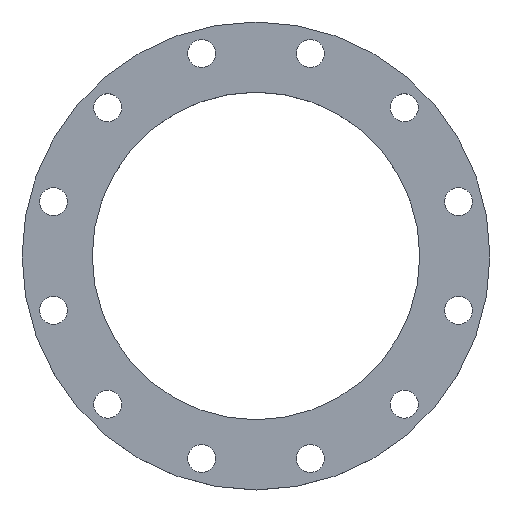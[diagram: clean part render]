
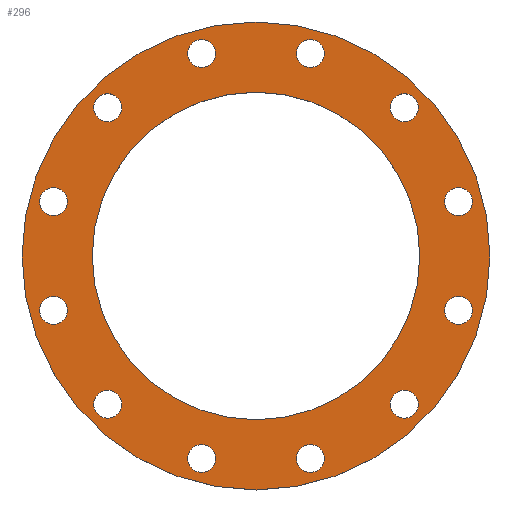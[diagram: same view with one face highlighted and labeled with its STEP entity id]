
A CAD part, top view. The second image highlights one B-rep face of the part: STEP entity #296.
In plain terms, the highlighted planar face has unit normal (0, 0, 1).
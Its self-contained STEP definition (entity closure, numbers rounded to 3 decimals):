
#14=PLANE($,#343);
#43=FACE_BOUND($,#113,.T.);
#44=FACE_BOUND($,#114,.T.);
#45=FACE_BOUND($,#115,.T.);
#46=FACE_BOUND($,#116,.T.);
#47=FACE_BOUND($,#117,.T.);
#48=FACE_BOUND($,#118,.T.);
#49=FACE_BOUND($,#119,.T.);
#50=FACE_BOUND($,#120,.T.);
#51=FACE_BOUND($,#121,.T.);
#52=FACE_BOUND($,#122,.T.);
#53=FACE_BOUND($,#123,.T.);
#54=FACE_BOUND($,#124,.T.);
#55=FACE_BOUND($,#125,.T.);
#56=FACE_BOUND($,#126,.T.);
#113=EDGE_LOOP($,(#253));
#114=EDGE_LOOP($,(#254));
#115=EDGE_LOOP($,(#255));
#116=EDGE_LOOP($,(#256));
#117=EDGE_LOOP($,(#257));
#118=EDGE_LOOP($,(#258));
#119=EDGE_LOOP($,(#259));
#120=EDGE_LOOP($,(#260));
#121=EDGE_LOOP($,(#261));
#122=EDGE_LOOP($,(#262));
#123=EDGE_LOOP($,(#263));
#124=EDGE_LOOP($,(#264));
#125=EDGE_LOOP($,(#265));
#126=EDGE_LOOP($,(#266));
#128=CIRCLE($,#302,11.5);
#130=CIRCLE($,#305,11.5);
#132=CIRCLE($,#308,11.5);
#134=CIRCLE($,#311,11.5);
#136=CIRCLE($,#314,11.5);
#138=CIRCLE($,#317,11.5);
#140=CIRCLE($,#320,11.5);
#142=CIRCLE($,#323,11.5);
#144=CIRCLE($,#326,11.5);
#146=CIRCLE($,#329,11.5);
#148=CIRCLE($,#332,11.5);
#150=CIRCLE($,#335,11.5);
#151=CIRCLE($,#337,134.75);
#153=CIRCLE($,#340,192.5);
#156=VERTEX_POINT($,#438);
#158=VERTEX_POINT($,#443);
#160=VERTEX_POINT($,#448);
#162=VERTEX_POINT($,#453);
#164=VERTEX_POINT($,#458);
#166=VERTEX_POINT($,#463);
#168=VERTEX_POINT($,#468);
#170=VERTEX_POINT($,#473);
#172=VERTEX_POINT($,#478);
#174=VERTEX_POINT($,#483);
#176=VERTEX_POINT($,#488);
#178=VERTEX_POINT($,#493);
#179=VERTEX_POINT($,#496);
#181=VERTEX_POINT($,#501);
#184=EDGE_CURVE($,#156,#156,#128,.T.);
#186=EDGE_CURVE($,#158,#158,#130,.T.);
#188=EDGE_CURVE($,#160,#160,#132,.T.);
#190=EDGE_CURVE($,#162,#162,#134,.T.);
#192=EDGE_CURVE($,#164,#164,#136,.T.);
#194=EDGE_CURVE($,#166,#166,#138,.T.);
#196=EDGE_CURVE($,#168,#168,#140,.T.);
#198=EDGE_CURVE($,#170,#170,#142,.T.);
#200=EDGE_CURVE($,#172,#172,#144,.T.);
#202=EDGE_CURVE($,#174,#174,#146,.T.);
#204=EDGE_CURVE($,#176,#176,#148,.T.);
#206=EDGE_CURVE($,#178,#178,#150,.T.);
#207=EDGE_CURVE($,#179,#179,#151,.T.);
#209=EDGE_CURVE($,#181,#181,#153,.T.);
#253=ORIENTED_EDGE($,*,*,#184,.T.);
#254=ORIENTED_EDGE($,*,*,#186,.T.);
#255=ORIENTED_EDGE($,*,*,#188,.T.);
#256=ORIENTED_EDGE($,*,*,#190,.T.);
#257=ORIENTED_EDGE($,*,*,#192,.T.);
#258=ORIENTED_EDGE($,*,*,#194,.T.);
#259=ORIENTED_EDGE($,*,*,#196,.T.);
#260=ORIENTED_EDGE($,*,*,#198,.T.);
#261=ORIENTED_EDGE($,*,*,#200,.T.);
#262=ORIENTED_EDGE($,*,*,#202,.T.);
#263=ORIENTED_EDGE($,*,*,#204,.T.);
#264=ORIENTED_EDGE($,*,*,#206,.T.);
#265=ORIENTED_EDGE($,*,*,#207,.T.);
#266=ORIENTED_EDGE($,*,*,#209,.T.);
#296=ADVANCED_FACE($,(#43,#44,#45,#46,#47,#48,#49,#50,#51,#52,#53,#54,#55,
#56),#14,.T.);
#302=AXIS2_PLACEMENT_3D($,#439,#350,#351);
#305=AXIS2_PLACEMENT_3D($,#444,#356,#357);
#308=AXIS2_PLACEMENT_3D($,#449,#362,#363);
#311=AXIS2_PLACEMENT_3D($,#454,#368,#369);
#314=AXIS2_PLACEMENT_3D($,#459,#374,#375);
#317=AXIS2_PLACEMENT_3D($,#464,#380,#381);
#320=AXIS2_PLACEMENT_3D($,#469,#386,#387);
#323=AXIS2_PLACEMENT_3D($,#474,#392,#393);
#326=AXIS2_PLACEMENT_3D($,#479,#398,#399);
#329=AXIS2_PLACEMENT_3D($,#484,#404,#405);
#332=AXIS2_PLACEMENT_3D($,#489,#410,#411);
#335=AXIS2_PLACEMENT_3D($,#494,#416,#417);
#337=AXIS2_PLACEMENT_3D($,#497,#420,#421);
#340=AXIS2_PLACEMENT_3D($,#502,#426,#427);
#343=AXIS2_PLACEMENT_3D($,#506,#432,#433);
#350=DIRECTION('center_axis',(0.,0.,-1.));
#351=DIRECTION('ref_axis',(-0.866,0.5,0.));
#356=DIRECTION('center_axis',(0.,0.,-1.));
#357=DIRECTION('ref_axis',(-0.5,0.866,0.));
#362=DIRECTION('center_axis',(0.,0.,-1.));
#363=DIRECTION('ref_axis',(0.,1.,0.));
#368=DIRECTION('center_axis',(0.,0.,-1.));
#369=DIRECTION('ref_axis',(0.5,0.866,0.));
#374=DIRECTION('center_axis',(0.,0.,-1.));
#375=DIRECTION('ref_axis',(0.866,0.5,0.));
#380=DIRECTION('center_axis',(0.,0.,-1.));
#381=DIRECTION('ref_axis',(1.,0.,0.));
#386=DIRECTION('center_axis',(0.,0.,-1.));
#387=DIRECTION('ref_axis',(0.866,-0.5,0.));
#392=DIRECTION('center_axis',(0.,0.,-1.));
#393=DIRECTION('ref_axis',(0.5,-0.866,0.));
#398=DIRECTION('center_axis',(0.,0.,-1.));
#399=DIRECTION('ref_axis',(0.,-1.,0.));
#404=DIRECTION('center_axis',(0.,0.,-1.));
#405=DIRECTION('ref_axis',(-0.5,-0.866,0.));
#410=DIRECTION('center_axis',(0.,0.,-1.));
#411=DIRECTION('ref_axis',(-0.866,-0.5,0.));
#416=DIRECTION('center_axis',(0.,0.,-1.));
#417=DIRECTION('ref_axis',(-1.,0.,0.));
#420=DIRECTION('center_axis',(0.,0.,-1.));
#421=DIRECTION('ref_axis',(-1.,0.,0.));
#426=DIRECTION('center_axis',(0.,0.,1.));
#427=DIRECTION('ref_axis',(-1.,0.,0.));
#432=DIRECTION('center_axis',(0.,0.,1.));
#433=DIRECTION('ref_axis',(1.,0.,0.));
#438=CARTESIAN_POINT('',(54.606,160.872,22.));
#439=CARTESIAN_POINT('Origin',(44.646,166.622,22.));
#443=CARTESIAN_POINT('',(127.726,112.017,22.));
#444=CARTESIAN_POINT('Origin',(121.976,121.976,22.));
#448=CARTESIAN_POINT('',(166.622,33.146,22.));
#449=CARTESIAN_POINT('Origin',(166.622,44.646,22.));
#453=CARTESIAN_POINT('',(160.872,-54.606,22.));
#454=CARTESIAN_POINT('Origin',(166.622,-44.646,22.));
#458=CARTESIAN_POINT('',(112.017,-127.726,22.));
#459=CARTESIAN_POINT('Origin',(121.976,-121.976,22.));
#463=CARTESIAN_POINT('',(33.146,-166.622,22.));
#464=CARTESIAN_POINT('Origin',(44.646,-166.622,22.));
#468=CARTESIAN_POINT('',(-54.606,-160.872,22.));
#469=CARTESIAN_POINT('Origin',(-44.646,-166.622,22.));
#473=CARTESIAN_POINT('',(-127.726,-112.017,22.));
#474=CARTESIAN_POINT('Origin',(-121.976,-121.976,22.));
#478=CARTESIAN_POINT('',(-166.622,-33.146,22.));
#479=CARTESIAN_POINT('Origin',(-166.622,-44.646,22.));
#483=CARTESIAN_POINT('',(-160.872,54.606,22.));
#484=CARTESIAN_POINT('Origin',(-166.622,44.646,22.));
#488=CARTESIAN_POINT('',(-112.017,127.726,22.));
#489=CARTESIAN_POINT('Origin',(-121.976,121.976,22.));
#493=CARTESIAN_POINT('',(-33.146,166.622,22.));
#494=CARTESIAN_POINT('Origin',(-44.646,166.622,22.));
#496=CARTESIAN_POINT('',(134.75,0.,22.));
#497=CARTESIAN_POINT('Origin',(0.,0.,22.));
#501=CARTESIAN_POINT('',(192.5,0.,22.));
#502=CARTESIAN_POINT('Origin',(0.,0.,22.));
#506=CARTESIAN_POINT('Origin',(0.,0.,
22.));
